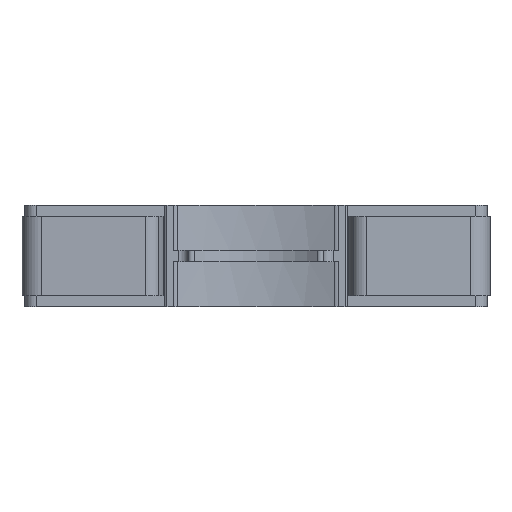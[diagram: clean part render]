
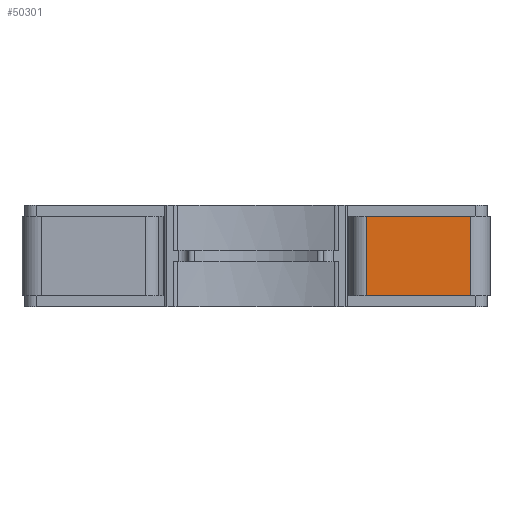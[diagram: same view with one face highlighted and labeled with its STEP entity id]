
A CAD part, front view. The second image highlights one B-rep face of the part: STEP entity #50301.
In plain terms, the highlighted planar face has unit normal (0.018, -1, 0).
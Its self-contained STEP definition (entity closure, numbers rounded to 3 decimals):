
#50301 = ADVANCED_FACE('',(#50302),#50316,.F.);
#50302 = FACE_BOUND('',#50303,.T.);
#50303 = EDGE_LOOP('',(#50304,#50327,#50343,#50359));
#50304 = ORIENTED_EDGE('',*,*,#50305,.T.);
#50305 = EDGE_CURVE('',#50306,#50308,#50310,.T.);
#50306 = VERTEX_POINT('',#50307);
#50307 = CARTESIAN_POINT('',(-189.346,-56.155,38.1));
#50308 = VERTEX_POINT('',#50309);
#50309 = CARTESIAN_POINT('',(-171.1,-55.836,38.1));
#50310 = SURFACE_CURVE('',#50311,(#50315),.PCURVE_S1.);
#50311 = LINE('',#50312,#50313);
#50312 = CARTESIAN_POINT('',(-189.346,-56.155,38.1));
#50313 = VECTOR('',#50314,1.);
#50314 = DIRECTION('',(1.,0.017,0.));
#50315 = PCURVE('',#50316,#50321);
#50316 = PLANE('',#50317);
#50317 = AXIS2_PLACEMENT_3D('',#50318,#50319,#50320);
#50318 = CARTESIAN_POINT('',(-189.346,-56.155,54.1));
#50319 = DIRECTION('',(-0.017,1.,0.));
#50320 = DIRECTION('',(-1.,-0.017,0.));
#50321 = DEFINITIONAL_REPRESENTATION('',(#50322),#50326);
#50322 = LINE('',#50323,#50324);
#50323 = CARTESIAN_POINT('',(0.,-16.));
#50324 = VECTOR('',#50325,1.);
#50325 = DIRECTION('',(-1.,0.));
#50326 = ( GEOMETRIC_REPRESENTATION_CONTEXT(2) 
PARAMETRIC_REPRESENTATION_CONTEXT() REPRESENTATION_CONTEXT('2D SPACE',''
  ) );
#50327 = ORIENTED_EDGE('',*,*,#50328,.F.);
#50328 = EDGE_CURVE('',#50329,#50308,#50331,.T.);
#50329 = VERTEX_POINT('',#50330);
#50330 = CARTESIAN_POINT('',(-171.1,-55.836,52.1));
#50331 = SURFACE_CURVE('',#50332,(#50336),.PCURVE_S1.);
#50332 = LINE('',#50333,#50334);
#50333 = CARTESIAN_POINT('',(-171.1,-55.836,54.1));
#50334 = VECTOR('',#50335,1.);
#50335 = DIRECTION('',(0.,0.,-1.));
#50336 = PCURVE('',#50316,#50337);
#50337 = DEFINITIONAL_REPRESENTATION('',(#50338),#50342);
#50338 = LINE('',#50339,#50340);
#50339 = CARTESIAN_POINT('',(-18.249,0.));
#50340 = VECTOR('',#50341,1.);
#50341 = DIRECTION('',(0.,-1.));
#50342 = ( GEOMETRIC_REPRESENTATION_CONTEXT(2) 
PARAMETRIC_REPRESENTATION_CONTEXT() REPRESENTATION_CONTEXT('2D SPACE',''
  ) );
#50343 = ORIENTED_EDGE('',*,*,#50344,.F.);
#50344 = EDGE_CURVE('',#50345,#50329,#50347,.T.);
#50345 = VERTEX_POINT('',#50346);
#50346 = CARTESIAN_POINT('',(-189.346,-56.155,52.1));
#50347 = SURFACE_CURVE('',#50348,(#50352),.PCURVE_S1.);
#50348 = LINE('',#50349,#50350);
#50349 = CARTESIAN_POINT('',(-189.346,-56.155,52.1));
#50350 = VECTOR('',#50351,1.);
#50351 = DIRECTION('',(1.,0.017,0.));
#50352 = PCURVE('',#50316,#50353);
#50353 = DEFINITIONAL_REPRESENTATION('',(#50354),#50358);
#50354 = LINE('',#50355,#50356);
#50355 = CARTESIAN_POINT('',(0.,-2.));
#50356 = VECTOR('',#50357,1.);
#50357 = DIRECTION('',(-1.,0.));
#50358 = ( GEOMETRIC_REPRESENTATION_CONTEXT(2) 
PARAMETRIC_REPRESENTATION_CONTEXT() REPRESENTATION_CONTEXT('2D SPACE',''
  ) );
#50359 = ORIENTED_EDGE('',*,*,#50360,.T.);
#50360 = EDGE_CURVE('',#50345,#50306,#50361,.T.);
#50361 = SURFACE_CURVE('',#50362,(#50366),.PCURVE_S1.);
#50362 = LINE('',#50363,#50364);
#50363 = CARTESIAN_POINT('',(-189.346,-56.155,54.1));
#50364 = VECTOR('',#50365,1.);
#50365 = DIRECTION('',(0.,0.,-1.));
#50366 = PCURVE('',#50316,#50367);
#50367 = DEFINITIONAL_REPRESENTATION('',(#50368),#50372);
#50368 = LINE('',#50369,#50370);
#50369 = CARTESIAN_POINT('',(0.,0.));
#50370 = VECTOR('',#50371,1.);
#50371 = DIRECTION('',(0.,-1.));
#50372 = ( GEOMETRIC_REPRESENTATION_CONTEXT(2) 
PARAMETRIC_REPRESENTATION_CONTEXT() REPRESENTATION_CONTEXT('2D SPACE',''
  ) );
